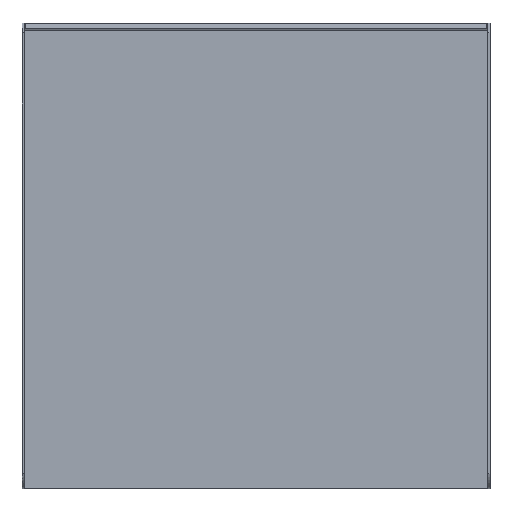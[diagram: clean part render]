
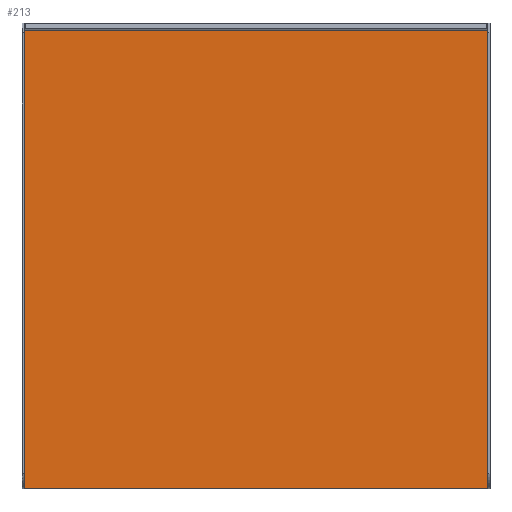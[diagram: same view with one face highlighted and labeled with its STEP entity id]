
A CAD part, front view. The second image highlights one B-rep face of the part: STEP entity #213.
In plain terms, the highlighted planar face has unit normal (0, -1, 0).
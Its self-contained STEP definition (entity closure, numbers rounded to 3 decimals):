
#80 = ORIENTED_EDGE ( 'NONE', *, *, #441, .F. ) ;
#84 = VECTOR ( 'NONE', #898, 1000. ) ;
#90 = CARTESIAN_POINT ( 'NONE',  ( -347., 0., -347. ) ) ;
#102 = FACE_OUTER_BOUND ( 'NONE', #411, .T. ) ;
#128 = EDGE_CURVE ( 'NONE', #1708, #404, #1682, .T. ) ;
#142 = VECTOR ( 'NONE', #1472, 1000. ) ;
#159 = AXIS2_PLACEMENT_3D ( 'NONE', #276, #913, #1045 ) ;
#213 = ADVANCED_FACE ( 'NONE', ( #102 ), #1593, .T. ) ;
#276 = CARTESIAN_POINT ( 'NONE',  ( 0., 0., 0. ) ) ;
#388 = DIRECTION ( 'NONE',  ( -1., 0., 0. ) ) ;
#404 = VERTEX_POINT ( 'NONE', #1286 ) ;
#411 = EDGE_LOOP ( 'NONE', ( #80, #1528, #1181, #795 ) ) ;
#441 = EDGE_CURVE ( 'NONE', #1120, #1270, #1025, .T. ) ;
#474 = VECTOR ( 'NONE', #916, 1000. ) ;
#648 = VECTOR ( 'NONE', #388, 1000. ) ;
#795 = ORIENTED_EDGE ( 'NONE', *, *, #1536, .F. ) ;
#898 = DIRECTION ( 'NONE',  ( 0., 0., 1. ) ) ;
#910 = CARTESIAN_POINT ( 'NONE',  ( 347., 0., -347. ) ) ;
#913 = DIRECTION ( 'NONE',  ( 0., -1., 0. ) ) ;
#916 = DIRECTION ( 'NONE',  ( 0., 0., -1. ) ) ;
#981 = EDGE_CURVE ( 'NONE', #404, #1120, #1304, .T. ) ;
#1025 = LINE ( 'NONE', #1429, #474 ) ;
#1045 = DIRECTION ( 'NONE',  ( 0., 0., -1. ) ) ;
#1120 = VERTEX_POINT ( 'NONE', #1363 ) ;
#1151 = LINE ( 'NONE', #90, #648 ) ;
#1154 = CARTESIAN_POINT ( 'NONE',  ( -347., 0., -347. ) ) ;
#1181 = ORIENTED_EDGE ( 'NONE', *, *, #128, .F. ) ;
#1270 = VERTEX_POINT ( 'NONE', #910 ) ;
#1286 = CARTESIAN_POINT ( 'NONE',  ( -347., 0., 347. ) ) ;
#1304 = LINE ( 'NONE', #1581, #142 ) ;
#1363 = CARTESIAN_POINT ( 'NONE',  ( 347., 0., 347. ) ) ;
#1429 = CARTESIAN_POINT ( 'NONE',  ( 347., 0., 347. ) ) ;
#1472 = DIRECTION ( 'NONE',  ( 1., 0., 0. ) ) ;
#1528 = ORIENTED_EDGE ( 'NONE', *, *, #981, .F. ) ;
#1536 = EDGE_CURVE ( 'NONE', #1270, #1708, #1151, .T. ) ;
#1581 = CARTESIAN_POINT ( 'NONE',  ( -347., 0., 347. ) ) ;
#1593 = PLANE ( 'NONE',  #159 ) ;
#1657 = CARTESIAN_POINT ( 'NONE',  ( -347., 0., 347. ) ) ;
#1682 = LINE ( 'NONE', #1657, #84 ) ;
#1708 = VERTEX_POINT ( 'NONE', #1154 ) ;
